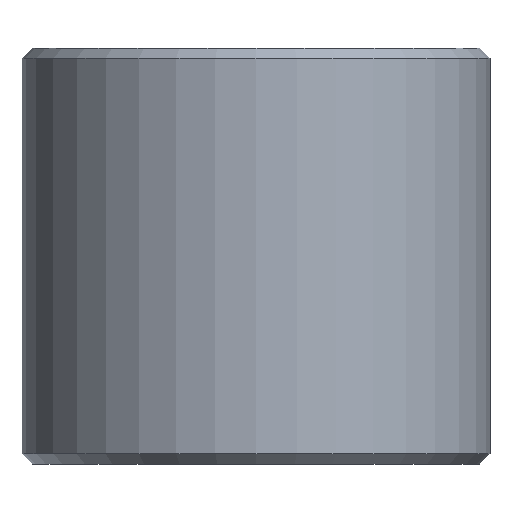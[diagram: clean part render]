
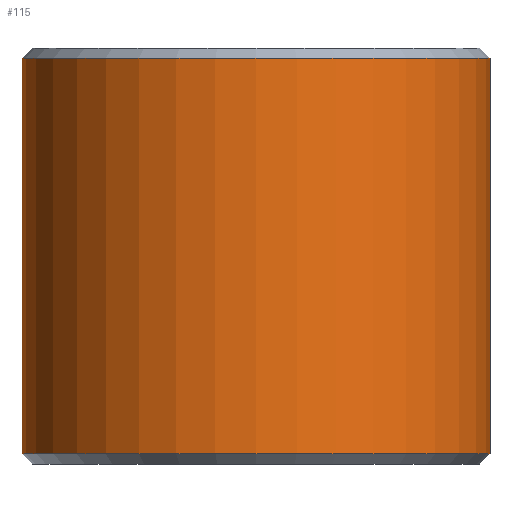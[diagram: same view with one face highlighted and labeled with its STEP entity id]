
A CAD part, front view. The second image highlights one B-rep face of the part: STEP entity #115.
In plain terms, the highlighted cylindrical face has radius 22.5 mm (diameter 45 mm), a partial arc.
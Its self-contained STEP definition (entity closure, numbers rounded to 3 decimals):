
#8 = DIRECTION ( 'NONE',  ( 0., 0., -1. ) ) ;
#12 = CARTESIAN_POINT ( 'NONE',  ( 22.5, 0., -19. ) ) ;
#18 = DIRECTION ( 'NONE',  ( 1., 0., 0. ) ) ;
#33 = VERTEX_POINT ( 'NONE', #70 ) ;
#41 = ORIENTED_EDGE ( 'NONE', *, *, #351, .T. ) ;
#58 = VERTEX_POINT ( 'NONE', #12 ) ;
#62 = CARTESIAN_POINT ( 'NONE',  ( -22.5, 0., 19. ) ) ;
#70 = CARTESIAN_POINT ( 'NONE',  ( -22.5, 0., -19. ) ) ;
#75 = ORIENTED_EDGE ( 'NONE', *, *, #229, .T. ) ;
#78 = DIRECTION ( 'NONE',  ( -1., 0., 0. ) ) ;
#93 = LINE ( 'NONE', #233, #341 ) ;
#101 = EDGE_LOOP ( 'NONE', ( #381, #318, #75, #41 ) ) ;
#110 = VERTEX_POINT ( 'NONE', #395 ) ;
#115 = ADVANCED_FACE ( 'NONE', ( #356 ), #300, .T. ) ;
#117 = DIRECTION ( 'NONE',  ( 0., 0., -1. ) ) ;
#128 = DIRECTION ( 'NONE',  ( 0., 0., -1. ) ) ;
#149 = CARTESIAN_POINT ( 'NONE',  ( 0., 0., -19. ) ) ;
#153 = VECTOR ( 'NONE', #117, 1000. ) ;
#162 = CARTESIAN_POINT ( 'NONE',  ( 0., 0., 19. ) ) ;
#185 = CARTESIAN_POINT ( 'NONE',  ( 22.5, 0., 20. ) ) ;
#229 = EDGE_CURVE ( 'NONE', #290, #33, #93, .T. ) ;
#233 = CARTESIAN_POINT ( 'NONE',  ( -22.5, 0., 20. ) ) ;
#269 = DIRECTION ( 'NONE',  ( 1., 0., 0. ) ) ;
#279 = AXIS2_PLACEMENT_3D ( 'NONE', #302, #8, #78 ) ;
#289 = AXIS2_PLACEMENT_3D ( 'NONE', #149, #321, #18 ) ;
#290 = VERTEX_POINT ( 'NONE', #62 ) ;
#300 = CYLINDRICAL_SURFACE ( 'NONE', #279, 22.5 ) ;
#302 = CARTESIAN_POINT ( 'NONE',  ( 0., 0., 20. ) ) ;
#308 = EDGE_CURVE ( 'NONE', #110, #290, #309, .T. ) ;
#309 = CIRCLE ( 'NONE', #399, 22.5 ) ;
#318 = ORIENTED_EDGE ( 'NONE', *, *, #308, .T. ) ;
#321 = DIRECTION ( 'NONE',  ( 0., 0., 1. ) ) ;
#340 = EDGE_CURVE ( 'NONE', #110, #58, #392, .T. ) ;
#341 = VECTOR ( 'NONE', #128, 1000. ) ;
#351 = EDGE_CURVE ( 'NONE', #33, #58, #391, .T. ) ;
#356 = FACE_OUTER_BOUND ( 'NONE', #101, .T. ) ;
#381 = ORIENTED_EDGE ( 'NONE', *, *, #340, .F. ) ;
#391 = CIRCLE ( 'NONE', #289, 22.5 ) ;
#392 = LINE ( 'NONE', #185, #153 ) ;
#395 = CARTESIAN_POINT ( 'NONE',  ( 22.5, 0., 19. ) ) ;
#399 = AXIS2_PLACEMENT_3D ( 'NONE', #162, #440, #269 ) ;
#440 = DIRECTION ( 'NONE',  ( 0., 0., -1. ) ) ;
